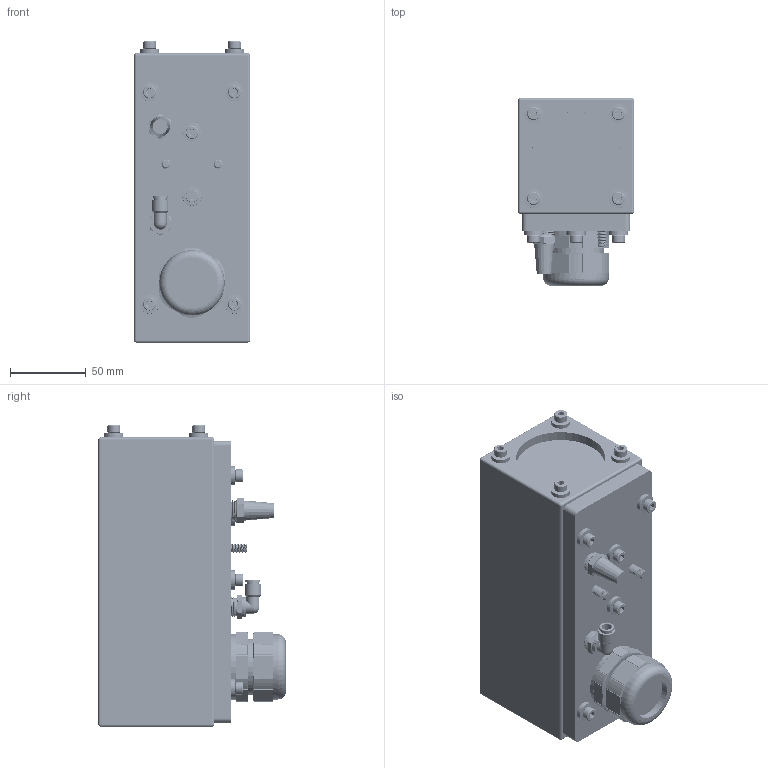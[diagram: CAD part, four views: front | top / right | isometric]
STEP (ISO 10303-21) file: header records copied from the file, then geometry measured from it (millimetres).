
FILE_DESCRIPTION (( 'STEP AP203' ), '1' );
FILE_NAME ('30D-GE.STEP', '2022-03-09T16:45:26', ( '' ), ( '' ), 'SwSTEP 2.0', 'SolidWorks 2021', '' );
FILE_SCHEMA (( 'CONFIG_CONTROL_DESIGN' ));
Length unit declared in the file: inch
Products named in the file (23): 93625A200; PG29-01-01-01-03; PG29-S01; 200344; SP-M5-2; 9452K140_9452K14; PG29-N03; 200343; 94709A212; 5779K152_5779K152; 200401; 400109; PG29-B01; 91292A128; PG29-I01; 91292A137; 400108; 4450K2_4450K2; 500103; 30D-GE; 200400; 200953; 94709A214
Assembly tree (53 placements, depth 3):
  30D-GE
    200953
    200401
      200400
      SP-M5-2  x4
    400108
    400109
    500103
    200343
    200344
    PG29-01-01-01-03
      PG29-B01
      PG29-I01
      PG29-S01
      PG29-N03
    93625A200  x6
    94709A212  x10
    91292A128  x10
    94709A214  x2
    91292A137  x2
    9452K140_9452K14  x4
    4450K2_4450K2
    5779K152_5779K152
Bounding box: 76.2 x 123.31 x 198.35 mm (x, y, z)
Volume: 296828.7 mm3; surface area: 241148.4 mm2
Topology: 72 solids, 72 shells, 3238 faces, 8656 edges, 5576 vertices
Faces by surface type: cylinder 1893, plane 678, cone 430, sphere 106, torus 83, bspline 48
Entity records: 52783 total; most frequent: CARTESIAN_POINT 19800, ORIENTED_EDGE 6442, DIRECTION 6098, EDGE_CURVE 3221, AXIS2_PLACEMENT_3D 2351, VERTEX_POINT 2066, LINE 1396, VECTOR 1396
